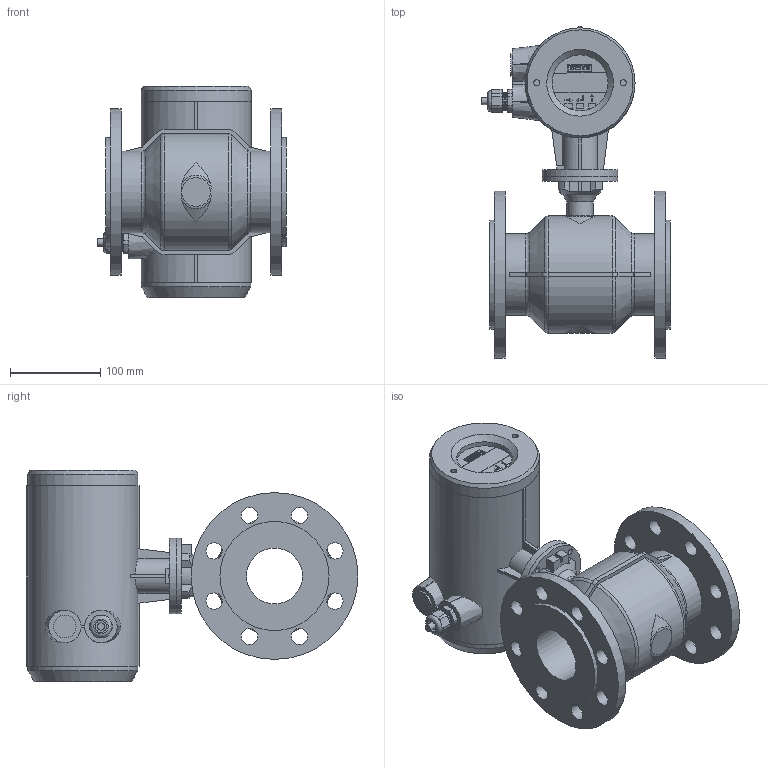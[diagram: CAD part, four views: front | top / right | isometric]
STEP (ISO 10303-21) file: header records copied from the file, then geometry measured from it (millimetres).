
FILE_DESCRIPTION (( 'STEP AP203' ), '1' );
FILE_NAME ('KROHNE_OPTIFLUX_4040C_DIN2634_DN65_PN25.STEP', '2011-05-18T15:59:02', ( '' ), ( '' ), 'SwSTEP 2.0', 'SolidWorks 2010', '' );
FILE_SCHEMA (( 'CONFIG_CONTROL_DESIGN' ));
Length unit declared in the file: millimetre
Products named in the file (1): KROHNE_OPTIFLUX_4040C_DIN2634_DN65_PN25
Bounding box: 209 x 368 x 234 mm (x, y, z)
Volume: 2579341.7 mm3; surface area: 526241.1 mm2
Topology: 24 solids, 24 shells, 451 faces, 1113 edges, 739 vertices
Faces by surface type: plane 270, cylinder 108, bspline 37, cone 23, torus 13
Full cylindrical faces by diameter (mm): 6.5 x2, 6.6 x8, 6.8 x3, 7 x4, 8 x1, 13 x1, 18 x19, 19 x1, 19.06 x3, 20 x2, 25 x1, 29 x1, 39 x1, 62 x2, 78 x1, 82 x1, 84 x3, 90.6 x2, 101 x1, 103 x1, 113 x2, 116 x3, 121 x2, 122 x2, 185 x2
Entity records: 14152 total; most frequent: CARTESIAN_POINT 3959, ORIENTED_EDGE 2008, DIRECTION 1954, EDGE_CURVE 1004, VERTEX_POINT 709, AXIS2_PLACEMENT_3D 674, EDGE_LOOP 633, LINE 606
